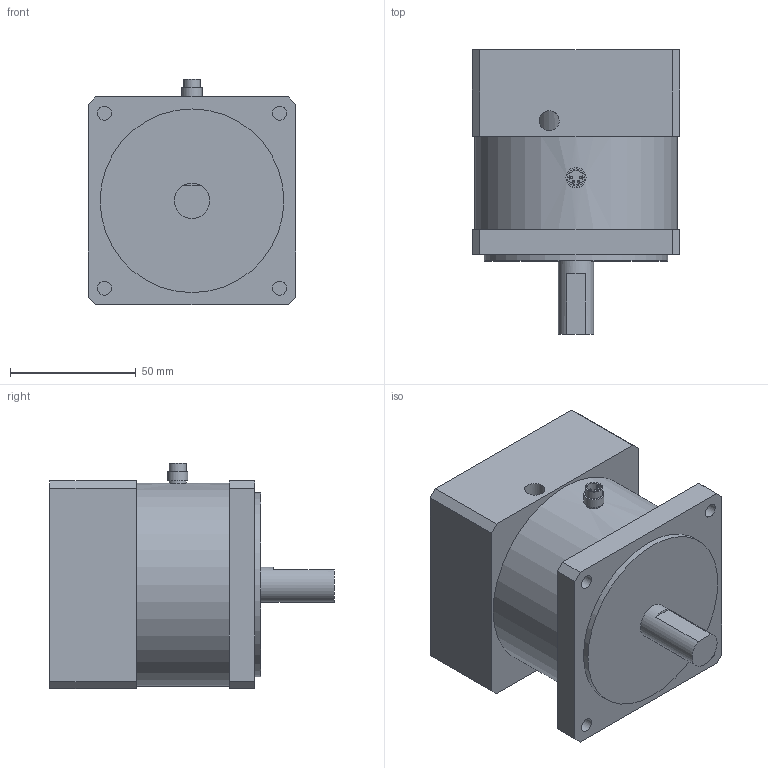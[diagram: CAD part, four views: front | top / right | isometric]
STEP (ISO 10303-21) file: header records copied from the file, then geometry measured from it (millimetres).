
FILE_DESCRIPTION( ( 'Unknown' ), '1' );
FILE_NAME( 'K:/JVL/MAB34x/Cad drawing/STP/STEP/MAB34x-93 V1_0.stp', 'Unknown', ( 'Unknown' ), ( 'Unknown' ), 'PSStep 11.0', 'Unknown', ' ' );
FILE_SCHEMA( ( 'AUTOMOTIVE_DESIGN { 1 0 10303 214 1 1 1 1 }' ) );
Length unit declared in the file: millimetre
Products named in the file (1): 1
Bounding box: 82.6 x 113 x 89.6 mm (x, y, z)
Volume: 458143.4 mm3; surface area: 51418.8 mm2
Topology: 1 solids, 1 shells, 84 faces, 199 edges, 133 vertices
Faces by surface type: plane 50, cylinder 30, sphere 4
Full cylindrical faces by diameter (mm): 1 x4, 4.134 x4, 5.6 x4, 5.62 x1, 6.8 x2, 8 x2, 14 x1, 33 x1, 40.9 x1, 73 x2, 80.6 x1
Entity records: 3027 total; most frequent: CARTESIAN_POINT 521, DIRECTION 387, ORIENTED_EDGE 314, EDGE_CURVE 157, AXIS2_PLACEMENT_3D 148, EDGE_LOOP 137, VERTEX_POINT 118, FACE_OUTER_BOUND 107
